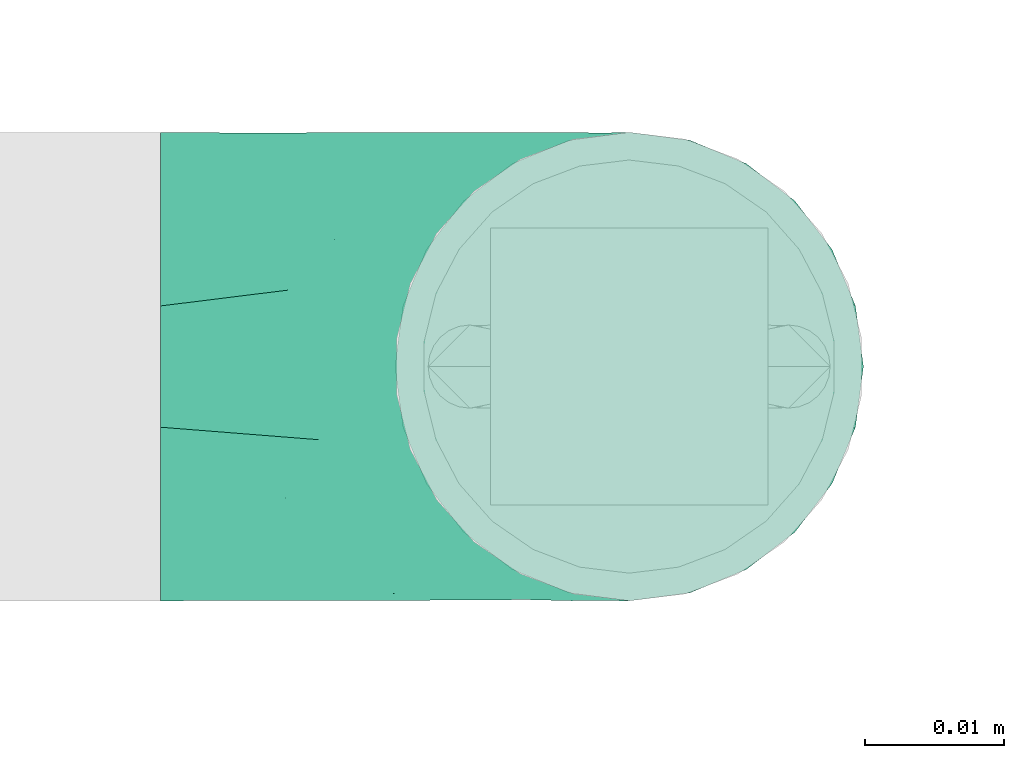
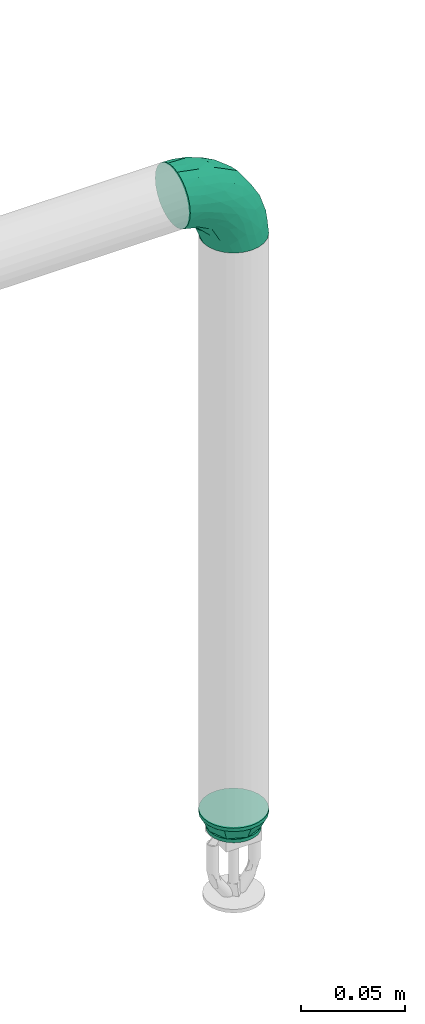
# One storey, part 9 of 17: 2 flow fittings.
"""IFC2X3 building model written with IfcOpenShell, lengths in millimetres."""

import ifcopenshell
import ifcopenshell.guid

model = None  # the IFC model being written
_history = None  # IfcOwnerHistory: only IFC2X3 demands one
_inside = {}  # id of a spatial element -> (the spatial element, [elements in it])
_under = {}  # id of a project, library or spatial element -> (it, [spatial elements below it])
_declared = {}  # id of a project -> (the project, [libraries it declares])
_typed = {}  # id of a type object -> (the type object, [elements of that type])
_made_of = {}  # id of a material, layer set ... -> (it, [elements and type objects made of it])


def new_model(schema):
    """Start an empty IFC model of exactly this schema.

    Asked for "IFC4X3", IfcOpenShell would pick the latest addendum, in which some entities
    have other attributes; the version numbers below select the first issue.
    IFC2X3 requires an IfcOwnerHistory on every rooted entity: one is made here for all.
    """
    global model, _history
    if schema == "IFC4X3":
        model = ifcopenshell.file(schema_version=(4, 3, 0, 0))
    else:
        model = ifcopenshell.file(schema=schema)
    _inside.clear()
    _under.clear()
    _declared.clear()
    _typed.clear()
    _made_of.clear()
    _history = None
    if model.schema == "IFC2X3":
        org = make("IfcOrganization", Name="unknown")
        user = make(
            "IfcPersonAndOrganization",
            ThePerson=make("IfcPerson", FamilyName="unknown"),
            TheOrganization=org,
        )
        app = make(
            "IfcApplication",
            ApplicationDeveloper=org,
            Version="unknown",
            ApplicationFullName="unknown",
            ApplicationIdentifier="unknown",
        )
        _history = make(
            "IfcOwnerHistory",
            OwningUser=user,
            OwningApplication=app,
            ChangeAction="ADDED",
            CreationDate=0,
        )
    return model


def make(cls, **values):
    """One entity of the class cls with the attributes given. An attribute that is None is left unset."""
    return model.create_entity(
        cls, **{name: value for name, value in values.items() if value is not None}
    )


def entity(cls, *values):
    """Any entity or typed value of the class cls, its attributes in the order of the schema. None: left unset."""
    e = model.create_entity(cls)
    for i, value in enumerate(values):
        if value is not None:
            e[i] = value
    return e


def rooted(cls, **values):
    """An entity with a GlobalId (a new one), such as an element, a storey or a relation."""
    return make(cls, GlobalId=ifcopenshell.guid.new(), OwnerHistory=_history, **values)


def si_unit(unit_type, name, prefix=None):
    """IfcSIUnit, for example si_unit("LENGTHUNIT", "METRE", prefix="MILLI")."""
    return make("IfcSIUnit", UnitType=unit_type, Prefix=prefix, Name=name)


def converted_unit(unit_type, name, factor, base, dimensions=None, offset=None):
    """IfcConversionBasedUnit, such as the inch: factor (a typed value) times the base unit."""
    return make(
        "IfcConversionBasedUnit"
        if offset is None
        else "IfcConversionBasedUnitWithOffset",
        ConversionOffset=offset,
        Dimensions=None
        if dimensions is None
        else entity("IfcDimensionalExponents", *dimensions),
        UnitType=unit_type,
        Name=name,
        ConversionFactor=make(
            "IfcMeasureWithUnit", ValueComponent=factor, UnitComponent=base
        ),
    )


def derived_unit(unit_type, elements):
    """IfcDerivedUnit: a product of units, each with its exponent."""
    return make(
        "IfcDerivedUnit",
        Elements=[
            make("IfcDerivedUnitElement", Unit=unit, Exponent=power)
            for unit, power in elements
        ],
        UnitType=unit_type,
    )


def assignment(units):
    """IfcUnitAssignment: the units of a project."""
    return None if units is None else make("IfcUnitAssignment", Units=units)


def point(xyz):
    """IfcCartesianPoint."""
    return None if xyz is None else make("IfcCartesianPoint", Coordinates=xyz)


def direction(xyz):
    """IfcDirection."""
    return None if xyz is None else make("IfcDirection", DirectionRatios=xyz)


def frame(location, z_axis=None, x_axis=None):
    """IfcAxis2Placement3D, a coordinate frame: its origin and axes. An axis left out is left unset."""
    return make(
        "IfcAxis2Placement3D",
        Location=point(location),
        Axis=direction(z_axis),
        RefDirection=direction(x_axis),
    )


def origin_with_axes():
    """The frame at (0, 0, 0) with the z axis (0, 0, 1) and the x axis (1, 0, 0) written out."""
    return frame((0.0, 0.0, 0.0), z_axis=(0.0, 0.0, 1.0), x_axis=(1.0, 0.0, 0.0))


def place(relative_to, where):
    """IfcLocalPlacement: puts the frame where relative to a parent placement (None: the world)."""
    return make(
        "IfcLocalPlacement", PlacementRelTo=relative_to, RelativePlacement=where
    )


def context(
    kind, dimensions, precision=None, world=None, true_north=None, identifier=None
):
    """IfcGeometricRepresentationContext, for example the 3D "Model" context."""
    return make(
        "IfcGeometricRepresentationContext",
        ContextIdentifier=identifier,
        ContextType=kind,
        CoordinateSpaceDimension=dimensions,
        Precision=precision,
        WorldCoordinateSystem=world,
        TrueNorth=true_north,
    )


def subcontext(parent, identifier, kind, view, scale=None):
    """IfcGeometricRepresentationSubContext, for example "Body" below "Model"."""
    return make(
        "IfcGeometricRepresentationSubContext",
        ContextIdentifier=identifier,
        ContextType=kind,
        ParentContext=parent,
        TargetScale=scale,
        TargetView=view,
    )


def project(units=None, contexts=None):
    """IfcProject with its units and contexts."""
    return rooted(
        "IfcProject",
        Name="project",
        RepresentationContexts=contexts,
        UnitsInContext=assignment(units),
    )


def spatial(cls, under=None, at=None, **own):
    """A site, building, storey or space (cls), placed at a placement, below another one or the project."""
    s = rooted(cls, ObjectPlacement=at, **own)
    if under is not None:
        _under.setdefault(under.id(), (under, []))[1].append(s)
    return s


def faces_of(points, faces, orient=None, outer=None):
    """IfcFace entities. A face is a list of loops; a loop is a list of indices into points, from 0.

    orient and outer hold one flag for each loop. By default every Orientation is true, the
    first loop of a face is its IfcFaceOuterBound and the others are IfcFaceBound.
    """
    made = []
    for i, loops in enumerate(faces):
        bounds = []
        for j, loop in enumerate(loops):
            is_outer = j == 0 if outer is None else outer[i][j]
            bounds.append(
                make(
                    "IfcFaceOuterBound" if is_outer else "IfcFaceBound",
                    Bound=make("IfcPolyLoop", Polygon=[points[k] for k in loop]),
                    Orientation=True if orient is None else orient[i][j],
                )
            )
        made.append(make("IfcFace", Bounds=bounds))
    return made


def open_shell(faces, orient=None, outer=None):
    """The faces of one IfcOpenShell. surface_model builds it on its shared points."""
    return ("IfcOpenShell", faces, orient, outer)


def surface_model(cls, points, shells):
    """IfcFaceBasedSurfaceModel or IfcShellBasedSurfaceModel (cls): surfaces that need not close."""
    shared = [point(p) for p in points]
    made = [make(c, CfsFaces=faces_of(shared, fs, o, b)) for c, fs, o, b in shells]
    if cls == "IfcFaceBasedSurfaceModel":
        return make(cls, FbsmFaces=made)
    return make(cls, SbsmBoundary=made)


def shape(context_of_items, identifier, shape_type, items):
    """IfcShapeRepresentation: the items that make up one representation, for example the "Body"."""
    return make(
        "IfcShapeRepresentation",
        ContextOfItems=context_of_items,
        RepresentationIdentifier=identifier,
        RepresentationType=shape_type,
        Items=items,
    )


def source(mapping_origin, context_of_items, identifier, shape_type, items):
    """IfcRepresentationMap: a shape defined once, which mapped items show again and again."""
    return make(
        "IfcRepresentationMap",
        MappingOrigin=mapping_origin,
        MappedRepresentation=shape(context_of_items, identifier, shape_type, items),
    )


def transform(
    local_origin,
    x_axis=None,
    y_axis=None,
    z_axis=None,
    scale=None,
    scale2=None,
    scale3=None,
    uniform=True,
):
    """IfcCartesianTransformationOperator3D, or its non-uniform kind. x_axis, y_axis, z_axis: its Axis1, 2, 3."""
    if uniform:
        return make(
            "IfcCartesianTransformationOperator3D",
            Axis1=direction(x_axis),
            Axis2=direction(y_axis),
            LocalOrigin=point(local_origin),
            Scale=scale,
            Axis3=direction(z_axis),
        )
    return make(
        "IfcCartesianTransformationOperator3DnonUniform",
        Axis1=direction(x_axis),
        Axis2=direction(y_axis),
        LocalOrigin=point(local_origin),
        Scale=scale,
        Axis3=direction(z_axis),
        Scale2=scale2,
        Scale3=scale3,
    )


def mapped(mapping_source, mapping_target):
    """IfcMappedItem: shows the shape of a source again, moved by a transform."""
    return make(
        "IfcMappedItem", MappingSource=mapping_source, MappingTarget=mapping_target
    )


def made_of(thing, what):
    """Note that an element or type object is made of a material, layer set ...; save() writes the relation."""
    if what is not None:
        _made_of.setdefault(what.id(), (what, []))[1].append(thing)
    return thing


def type_object(cls, material=None, **own):
    """A type object (cls), such as IfcWallType, which elements share."""
    return made_of(rooted(cls, **own), material)


def element(
    cls,
    number,
    at=None,
    inside=None,
    cuts=None,
    type_object=None,
    material=None,
    context=None,
    identifier="Body",
    shape_type=None,
    held_by="IfcProductDefinitionShape",
    body=None,
    shapes=None,
    **own,
):
    """One element of the class cls, such as IfcWall. Its Tag is "e" and its number.

    at: its placement. inside: the storey or other place that contains it. cuts: it is an
    opening in that element (IfcRelVoidsElement). A single representation is given by context,
    identifier, shape_type and body (its items); several are given by shapes. held_by: the class
    of the entity that holds the representations. save() writes the other relations.
    """
    e = rooted(cls, Tag="e%d" % number, ObjectPlacement=at, **own)
    if body is not None:
        shapes = [shape(context, identifier, shape_type, body)]
    if shapes is not None:
        e.Representation = make(held_by, Representations=shapes)
    if inside is not None:
        _inside.setdefault(inside.id(), (inside, []))[1].append(e)
    if cuts is not None:
        rooted(
            "IfcRelVoidsElement", RelatingBuildingElement=cuts, RelatedOpeningElement=e
        )
    if type_object is not None:
        _typed.setdefault(type_object.id(), (type_object, []))[1].append(e)
    return made_of(e, material)


def aggregate(whole, parts):
    """IfcRelAggregates: a whole, such as a stair, and the parts it consists of."""
    return rooted("IfcRelAggregates", RelatingObject=whole, RelatedObjects=parts)


def save(model, path):
    """Write the relations noted so far, then the file.

    IfcRelAggregates (storeys below a building ...), IfcRelContainedInSpatialStructure (elements
    in a storey), IfcRelDefinesByType, IfcRelAssociatesMaterial and IfcRelDeclares: one each for
    every whole, place, type object, material and project.
    """
    for whole, parts in _under.values():
        aggregate(whole, parts)
    for where, things in _inside.values():
        rooted(
            "IfcRelContainedInSpatialStructure",
            RelatedElements=things,
            RelatingStructure=where,
        )
    for kind, things in _typed.values():
        rooted("IfcRelDefinesByType", RelatedObjects=things, RelatingType=kind)
    for what, things in _made_of.values():
        rooted("IfcRelAssociatesMaterial", RelatedObjects=things, RelatingMaterial=what)
    for by, libraries in _declared.values():
        rooted("IfcRelDeclares", RelatingContext=by, RelatedDefinitions=libraries)
    model.write(path)


model = new_model("IFC2X3")

# Units and contexts
model_context = context("Model", 3, precision=0.01, world=frame((0.0, 4.29681676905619e-09, 0.0)), true_north=direction((4.01073788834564e-13, 1.0)))
plan_context = context("Plan", 3, precision=0.01, world=frame((0.0, 4.29681676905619e-09, 0.0)), true_north=direction((4.01073788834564e-13, 1.0)))
body_context = subcontext(model_context, "Body", "Model", "MODEL_VIEW")
ifc_project = project(units=[converted_unit("PLANEANGLEUNIT", "DEGREE", entity("IfcPositiveLengthMeasure", 0.0174532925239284), si_unit("PLANEANGLEUNIT", "RADIAN"), dimensions=[0, 0, 0, 0, 0, 0, 0]), si_unit("AREAUNIT", "SQUARE_METRE"), si_unit("LENGTHUNIT", "METRE", prefix="MILLI"), si_unit("MASSUNIT", "GRAM", prefix="KILO"), si_unit("POWERUNIT", "WATT"), si_unit("PRESSUREUNIT", "PASCAL", prefix="KILO"), si_unit("FORCEUNIT", "NEWTON", prefix="KILO"), si_unit("ELECTRICVOLTAGEUNIT", "VOLT"), si_unit("ELECTRICCURRENTUNIT", "AMPERE"), si_unit("THERMODYNAMICTEMPERATUREUNIT", "DEGREE_CELSIUS"), si_unit("TIMEUNIT", "SECOND"), si_unit("VOLUMEUNIT", "CUBIC_METRE"), derived_unit("LINEARVELOCITYUNIT", [(si_unit("LENGTHUNIT", "METRE"), 1), (si_unit("TIMEUNIT", "SECOND"), -1)]), derived_unit("VOLUMETRICFLOWRATEUNIT", [(si_unit("VOLUMEUNIT", "CUBIC_METRE"), 1), (si_unit("TIMEUNIT", "SECOND"), -1)]), derived_unit("THERMALTRANSMITTANCEUNIT", [(si_unit("POWERUNIT", "WATT"), 1), (si_unit("THERMODYNAMICTEMPERATUREUNIT", "KELVIN"), -1), (si_unit("AREAUNIT", "SQUARE_METRE"), -1)]), derived_unit("SOUNDPRESSUREUNIT", [(si_unit("PRESSUREUNIT", "PASCAL"), 1)])], contexts=[model_context, plan_context])

# Site, building, storey
site_placement = place(None, frame((0.0, -4.29681676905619e-09, 0.0), z_axis=(0.0, 0.0, 1.0), x_axis=(1.0, 0.0, 0.0)))
site = spatial("IfcSite", under=ifc_project, at=site_placement, CompositionType="ELEMENT")
building_placement = place(site_placement, frame((0.0, 4.29681676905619e-09, 0.0), z_axis=(0.0, 0.0, 1.0), x_axis=(1.0, 0.0, 0.0)))
building = spatial("IfcBuilding", under=site, at=building_placement, Name="mc-building", CompositionType="ELEMENT")
storey_placement = place(building_placement, frame((0.0, 0.0, 204000.0), z_axis=(0.0, 0.0, 1.0), x_axis=(1.0, 0.0, 0.0)))
storey = spatial("IfcBuildingStorey", under=building, at=storey_placement, Name="Nivå D", CompositionType="ELEMENT", Elevation=204000.0)

# Flow fittings
pipe_fitting_type_1 = type_object("IfcPipeFittingType", Name="magi_pipe_fe_elbow_short_001", PredefinedType="BEND")
shared_shape_1 = source(origin_with_axes(), body_context, "Body", "SurfaceModel", [
    surface_model("IfcShellBasedSurfaceModel", [(-33.8, 8.45, -14.63583), (-33.8, 4.37404, -16.32415), (-33.8, 11.9501, -11.9501), (-33.8, -11.9501, -11.9501), (-33.8, -14.63583, -8.45), (-33.8, -8.45, -14.63583), (-33.8, 0.0, -16.9), (-33.8, -4.37404, -16.32415), (-33.8, -4.37404, 16.32415), (-33.8, 0.0, 16.9), (-33.8, -8.45, 14.63583), (-33.8, 16.32415, -4.37404), (-33.8, 14.63583, -8.45), (-33.8, -16.32415, -4.37404), (-33.8, -16.9, 0.0), (-33.8, -16.32415, 4.37404), (-33.8, 11.9501, 11.9501), (-33.8, 14.63583, 8.45), (-33.8, 16.32415, 4.37404), (-33.8, 4.37404, 16.32415), (-33.8, 8.45, 14.63583), (-33.8, -14.63583, 8.45), (-33.8, -11.9501, 11.9501), (-33.8, 16.9, 0.0), (-11.9501, 33.8, -11.9501), (0.0, 33.8, -16.9), (-4.37404, 33.8, -16.32415), (-8.45, 33.8, -14.63583), (-14.63583, 33.8, -8.45), (-16.32415, 33.8, -4.37404), (14.63583, 33.8, -8.45), (8.45, 33.8, 14.63583), (16.32415, 33.8, -4.37404), (8.45, 33.8, -14.63583), (11.9501, 33.8, -11.9501), (4.37404, 33.8, -16.32415), (16.32415, 33.8, 4.37404), (16.9, 33.8, 0.0), (-11.9501, 33.8, 11.9501), (-16.32415, 33.8, 4.37404), (-14.63583, 33.8, 8.45), (-8.45, 33.8, 14.63583), (-4.37404, 33.8, 16.32415), (11.9501, 33.8, 11.9501), (14.63583, 33.8, 8.45), (0.0, 33.8, 16.9), (4.37404, 33.8, 16.32415), (-16.9, 33.8, 0.0), (-24.79389, -13.12945, 9.48721), (-22.19287, -9.75018, 12.59315), (-24.09897, -14.97035, 0.0), (-14.93934, -10.76256, 8.5297), (-22.46095, -14.75051, 5.27077), (14.75051, 22.46094, 5.27077), (11.9251, 13.23888, 4.33236), (13.04069, 14.39795, 0.0), (7.71387, 13.68847, 11.55891), (9.75018, 22.19287, 12.59315), (4.10169, 13.0571, 14.04018), (-24.84007, -6.39063, 15.2048), (-25.81779, -2.23879, 16.61097), (-23.66549, 2.59054, 16.87119), (-26.50418, 14.06512, 11.08152), (-24.21253, 17.66365, 7.72657), (-29.58514, 15.86957, 7.00283), (-6.17382, -7.5455, 0.0), (-13.23888, -11.9251, 4.33236), (-14.39795, -13.04069, 0.0), (-17.81434, 18.87373, 11.97104), (-6.30846, 29.15138, 15.82987), (-2.31622, 25.28002, 16.85849), (-29.23923, 10.23435, 13.77053), (-1.45439, -2.85688, 7.61475), (-0.28326, 0.34872, 10.09509), (-5.74484, -4.04709, 10.4122), (-4.41137, 11.31918, 16.59407), (-8.39727, 3.10034, 15.7812), (-1.72649, 9.1306, 15.53089), (-17.39909, 24.75344, 7.64977), (-26.19233, 20.0512, 0.0), (-28.14518, 17.29657, 4.25857), (-26.05147, 6.6281, 15.96447), (-5.87354, 16.61944, 16.86968), (-12.51807, 12.51807, 16.48937), (-10.06312, 7.38516, 16.81295), (-3.01882, 3.01882, 13.81718), (-13.0571, -4.10169, 14.04018), (-16.82553, -0.15166, 16.38038), (10.76256, 14.93934, 8.5297), (13.12945, 24.79389, 9.48721), (6.39063, 24.84007, 15.2048), (2.23879, 25.81779, 16.61097), (-13.68847, -7.71387, 11.55891), (14.97035, 24.09897, 0.0), (-7.30894, 22.89991, 16.09489), (-10.67958, 26.17414, 14.008), (-12.78295, 18.26924, 15.06066), (-13.88562, 22.45231, 12.93244), (-18.04944, 15.16501, 14.04434), (-23.11658, 20.08178, 4.02986), (-21.84989, 21.84989, 0.0), (-18.55817, 25.48277, 3.93065), (-13.95142, 26.94732, 11.03289), (-18.57098, 7.23906, 16.59756), (-16.58335, 4.14122, 16.89279), (-17.96666, 11.46709, 15.63151), (-9.84453, 17.54304, 16.18938), (0.15166, 16.82553, 16.38038), (-23.27207, 11.47201, 14.23154), (3.84842, 5.86994, 10.70473), (-8.0212, -7.54413, 7.93275), (1.00345, -2.19508, 4.57414), (5.13203, 3.01004, 5.90201), (5.24161, 1.7543, 2.53265), (8.70457, 7.04947, 3.99182), (-20.0512, 26.19233, 0.0), (8.4852, 8.76699, 7.09296), (-4.55488, -6.72064, 4.90681), (2.05031, -2.05031, 0.0), (7.5455, 6.17382, 0.0), (-26.75399, 2.1369, -16.845), (-14.61995, 24.73803, -11.27736), (-28.45274, -13.45335, -9.81895), (-26.00469, 6.63555, -15.96645), (-23.06726, 20.04573, -4.26202), (-13.80647, -4.26506, -14.17873), (-14.67501, -0.21081, -16.07388), (-6.7902, -0.2828, -13.8478), (-24.53586, 11.08096, -14.13417), (-26.72048, 14.00837, -11.05776), (10.0967, 24.44989, -12.75976), (5.83237, 21.40218, -15.03047), (6.66249, 28.54238, -15.38093), (-20.38182, 15.48705, -12.74596), (12.53268, 21.23441, -9.15363), (12.54494, 15.67504, -5.54878), (9.7522, 12.89279, -8.66343), (-15.65186, 19.64213, -13.01327), (-12.03528, 20.66498, -14.67665), (-15.61907, 15.61906, -14.83879), (-25.56551, -15.26206, 0.0), (-24.65452, -15.12934, -5.50955), (13.45335, 28.45274, -9.81895), (15.12934, 24.65452, -5.50955), (-7.35442, -8.31014, -5.65563), (-15.67504, -12.54494, -5.54878), (-24.44989, -10.0967, -12.75976), (0.16522, 0.41303, -9.71728), (-5.70658, -5.33066, -8.89288), (-5.13869, -2.37198, -11.53565), (-21.23441, -12.53268, -9.15363), (0.71146, 7.93863, -14.09382), (0.21081, 14.67501, -16.07388), (3.49291, 14.42772, -14.76381), (-24.89911, -2.13088, -16.591), (-28.54238, -6.66249, -15.38093), (-18.44386, -7.71663, -13.26957), (2.13088, 24.89911, -16.591), (-28.64342, 17.44413, -2.89318), (1.70017, -1.28722, -5.09504), (-16.57067, 26.81947, -7.36596), (-17.69055, 27.4263, -3.76405), (-12.89279, -9.7522, -8.66343), (-5.96611, 5.96611, -15.95814), (-20.53709, 20.09345, -8.28985), (-2.1369, 26.75399, -16.845), (-6.89872, 24.58781, -16.02578), (-10.60739, 26.53157, -13.98044), (-21.40218, -5.83237, -15.03047), (2.93192, 5.89627, -11.55917), (6.89393, 12.61842, -11.82233), (5.58056, 5.95325, -8.79455), (-3.99512, 18.61798, -16.89635), (8.31014, 7.35442, -5.65563), (-9.1383, 9.86148, -16.89041), (-9.99983, 16.02119, -16.39699), (-16.68576, 9.78031, -16.34199), (-27.01915, 16.61158, -7.12979), (15.26206, 25.56551, 0.0), (-18.61798, 3.99512, -16.89635), (-19.37495, 27.82495, 0.0), (-12.61842, -6.89393, -11.82233), (-18.84705, 19.14018, -10.96545)], [open_shell([[[0, 1, 2]], [[3, 4, 5]], [[6, 7, 5]], [[8, 9, 10]], [[1, 6, 2]], [[11, 12, 2]], [[4, 2, 6]], [[2, 13, 10]], [[5, 4, 6]], [[2, 4, 13]], [[14, 15, 13]], [[11, 2, 16]], [[11, 17, 18]], [[11, 16, 17]], [[19, 20, 16]], [[16, 2, 10]], [[19, 16, 10]], [[21, 22, 15]], [[22, 13, 15]], [[22, 10, 13]], [[10, 9, 19]], [[11, 18, 23]], [[24, 25, 26]], [[24, 26, 27]], [[24, 28, 29]], [[25, 24, 30]], [[31, 32, 24]], [[33, 30, 34]], [[33, 35, 25]], [[25, 30, 33]], [[32, 30, 24]], [[32, 36, 37]], [[38, 24, 29]], [[39, 40, 29]], [[40, 38, 29]], [[38, 41, 42]], [[38, 31, 24]], [[31, 38, 42]], [[36, 43, 44]], [[36, 32, 43]], [[31, 45, 46]], [[32, 31, 43]], [[42, 45, 31]], [[39, 29, 47]], [[22, 48, 49]], [[15, 14, 50]], [[51, 48, 52]], [[53, 54, 55]], [[48, 22, 21]], [[15, 52, 21]], [[56, 57, 58]], [[49, 10, 22]], [[49, 59, 10]], [[9, 60, 61]], [[62, 63, 64]], [[65, 66, 67]], [[57, 43, 31]], [[62, 68, 63]], [[42, 69, 70]], [[20, 71, 16]], [[8, 60, 9]], [[72, 73, 74]], [[75, 76, 77]], [[16, 62, 17]], [[40, 39, 78]], [[79, 23, 80]], [[64, 18, 17]], [[9, 61, 19]], [[19, 81, 20]], [[82, 83, 84]], [[74, 85, 86]], [[59, 86, 87]], [[88, 89, 57]], [[90, 31, 46]], [[44, 53, 36]], [[46, 45, 91]], [[54, 53, 88]], [[44, 89, 53]], [[92, 86, 49]], [[89, 44, 43]], [[10, 59, 8]], [[53, 55, 93]], [[93, 36, 53]], [[66, 52, 67]], [[94, 82, 70]], [[95, 96, 94]], [[97, 98, 96]], [[79, 99, 100]], [[41, 38, 95]], [[101, 100, 99]], [[68, 78, 63]], [[42, 41, 69]], [[23, 18, 80]], [[95, 94, 69]], [[78, 101, 99]], [[38, 102, 95]], [[70, 45, 42]], [[97, 95, 102]], [[15, 50, 52]], [[90, 57, 31]], [[57, 90, 58]], [[81, 19, 61]], [[103, 104, 84]], [[105, 81, 103]], [[38, 40, 102]], [[106, 96, 83]], [[94, 106, 82]], [[91, 70, 107]], [[71, 62, 16]], [[62, 108, 98]], [[86, 59, 49]], [[67, 52, 50]], [[60, 59, 87]], [[92, 49, 51]], [[86, 85, 76]], [[91, 90, 46]], [[37, 36, 93]], [[107, 77, 58]], [[107, 58, 90]], [[58, 85, 109]], [[110, 74, 92]], [[72, 74, 110]], [[66, 51, 52]], [[72, 111, 112]], [[113, 114, 112]], [[56, 88, 57]], [[52, 48, 21]], [[49, 48, 51]], [[57, 89, 43]], [[53, 89, 88]], [[103, 81, 61]], [[71, 81, 108]], [[18, 64, 80]], [[63, 78, 99]], [[47, 115, 101]], [[101, 115, 100]], [[40, 78, 102]], [[68, 102, 78]], [[97, 96, 95]], [[105, 98, 108]], [[103, 84, 83]], [[107, 70, 82]], [[76, 84, 87]], [[82, 84, 75]], [[70, 91, 45]], [[90, 91, 107]], [[59, 60, 8]], [[61, 60, 87]], [[73, 85, 74]], [[109, 112, 116]], [[103, 61, 104]], [[105, 103, 83]], [[96, 105, 83]], [[81, 105, 108]], [[96, 98, 105]], [[62, 98, 68]], [[61, 87, 104]], [[87, 84, 104]], [[86, 76, 87]], [[77, 76, 85]], [[58, 77, 85]], [[75, 77, 107]], [[82, 75, 107]], [[76, 75, 84]], [[81, 71, 20]], [[62, 71, 108]], [[95, 69, 41]], [[70, 69, 94]], [[62, 64, 17]], [[80, 63, 99]], [[63, 80, 64]], [[80, 99, 79]], [[66, 65, 117]], [[110, 66, 117]], [[112, 114, 116]], [[118, 117, 65]], [[110, 92, 51]], [[112, 111, 113]], [[119, 55, 54]], [[74, 86, 92]], [[58, 109, 56]], [[116, 56, 109]], [[66, 110, 51]], [[72, 110, 117]], [[111, 72, 117]], [[73, 112, 109]], [[117, 118, 111]], [[113, 111, 118]], [[118, 119, 113]], [[114, 119, 54]], [[119, 114, 113]], [[116, 54, 88]], [[54, 116, 114]], [[116, 88, 56]], [[112, 73, 72]], [[85, 73, 109]], [[78, 39, 101]], [[47, 101, 39]], [[102, 68, 97]], [[97, 68, 98]], [[82, 106, 83]], [[94, 96, 106]], [[1, 120, 6]], [[28, 24, 121]], [[3, 122, 4]], [[0, 123, 1]], [[100, 124, 79]], [[125, 126, 127]], [[128, 2, 129]], [[130, 131, 132]], [[128, 129, 133]], [[134, 135, 136]], [[137, 138, 139]], [[128, 0, 2]], [[67, 140, 141]], [[134, 142, 143]], [[141, 13, 4]], [[144, 65, 145]], [[146, 3, 5]], [[147, 148, 149]], [[145, 141, 150]], [[151, 152, 153]], [[154, 7, 6]], [[5, 155, 146]], [[150, 146, 156]], [[155, 5, 7]], [[143, 135, 134]], [[35, 157, 25]], [[23, 79, 158]], [[148, 159, 144]], [[160, 161, 29]], [[145, 162, 144]], [[163, 152, 151]], [[29, 28, 160]], [[121, 164, 160]], [[33, 34, 130]], [[25, 165, 26]], [[26, 165, 166]], [[142, 34, 30]], [[24, 27, 167]], [[124, 161, 164]], [[157, 35, 132]], [[155, 154, 168]], [[123, 0, 128]], [[169, 170, 171]], [[172, 157, 152]], [[26, 166, 27]], [[132, 35, 33]], [[142, 130, 34]], [[168, 154, 126]], [[136, 135, 173]], [[133, 137, 139]], [[2, 12, 129]], [[170, 131, 130]], [[30, 32, 143]], [[172, 174, 175]], [[176, 123, 128]], [[158, 177, 11]], [[135, 55, 119]], [[167, 27, 166]], [[175, 166, 172]], [[137, 167, 138]], [[122, 141, 4]], [[140, 14, 13]], [[32, 37, 178]], [[170, 130, 134]], [[152, 157, 131]], [[165, 157, 172]], [[153, 170, 151]], [[152, 163, 174]], [[168, 125, 156]], [[122, 146, 150]], [[120, 154, 6]], [[179, 174, 126]], [[179, 126, 154]], [[126, 163, 127]], [[162, 145, 150]], [[140, 13, 141]], [[32, 178, 143]], [[55, 143, 178]], [[177, 129, 12]], [[128, 133, 139]], [[176, 128, 139]], [[120, 123, 179]], [[121, 160, 28]], [[161, 100, 180]], [[166, 175, 138]], [[121, 24, 167]], [[161, 47, 29]], [[79, 124, 158]], [[124, 164, 177]], [[161, 124, 100]], [[136, 171, 170]], [[127, 163, 151]], [[147, 171, 159]], [[148, 144, 162]], [[127, 151, 169]], [[127, 181, 125]], [[129, 177, 164]], [[12, 11, 177]], [[159, 65, 144]], [[67, 141, 145]], [[143, 55, 135]], [[135, 119, 173]], [[123, 120, 1]], [[154, 120, 179]], [[157, 165, 25]], [[166, 165, 172]], [[172, 152, 174]], [[176, 139, 175]], [[126, 174, 163]], [[176, 174, 179]], [[174, 176, 175]], [[123, 176, 179]], [[150, 181, 162]], [[127, 149, 181]], [[181, 148, 162]], [[159, 148, 147]], [[171, 136, 173]], [[170, 134, 136]], [[159, 171, 173]], [[171, 147, 169]], [[169, 147, 149]], [[151, 170, 169]], [[164, 182, 129]], [[182, 121, 137]], [[181, 149, 148]], [[169, 149, 127]], [[182, 137, 133]], [[167, 137, 121]], [[166, 138, 167]], [[175, 139, 138]], [[129, 182, 133]], [[121, 182, 164]], [[161, 160, 164]], [[47, 161, 180]], [[177, 158, 124]], [[23, 158, 11]], [[130, 132, 33]], [[157, 132, 131]], [[143, 142, 30]], [[130, 142, 134]], [[154, 155, 7]], [[146, 155, 168]], [[146, 122, 3]], [[141, 122, 150]], [[152, 131, 153]], [[159, 119, 118]], [[67, 145, 65]], [[170, 153, 131]], [[119, 159, 173]], [[159, 118, 65]], [[156, 125, 181]], [[126, 125, 168]], [[150, 156, 181]], [[168, 156, 146]]])]),
])
flow_fitting_1_placement = place(storey_placement, frame((598404.25829, 402317.53152, 2780.0), z_axis=(0.0, -1.0, 0.0), x_axis=(0.0, 0.0, 1.0)))
element("IfcFlowFitting", 1, at=flow_fitting_1_placement, inside=storey, type_object=pipe_fitting_type_1, Name="magi_pipe_fe_elbow_short_001", context=body_context, shape_type="MappedRepresentation", body=[
    mapped(shared_shape_1, transform((0.0, 0.0, 0.0), scale=1.0)),
])
pipe_fitting_type_2 = type_object("IfcPipeFittingType", Name="magi_pipe_fe_reducer_centric_short_NOR", PredefinedType="TRANSITION")
shared_shape_2 = source(origin_with_axes(), body_context, "Body", "SurfaceModel", [
    surface_model("IfcShellBasedSurfaceModel", [(-2.0, -9.47523, 9.47523), (-2.0, 0.0, 13.4), (-2.0, 3.46818, 12.94341), (-2.0, 6.7, 11.60474), (-2.0, 9.47523, 9.47523), (-2.0, 11.60474, 6.7), (-2.0, 12.94341, 3.46818), (-2.0, -3.46818, 12.94341), (-2.0, -6.7, 11.60474), (-2.0, -12.94341, 3.46818), (-2.0, -11.60474, 6.7), (-2.0, -6.7, -11.60474), (-2.0, -12.94341, -3.46818), (-2.0, -13.4, 0.0), (-2.0, 12.94341, -3.46818), (-2.0, 6.7, -11.60474), (-2.0, 9.47523, -9.47523), (-2.0, 11.60474, -6.7), (-2.0, 3.46818, -12.94341), (-2.0, 0.0, -13.4), (-2.0, -9.47523, -9.47523), (-2.0, -11.60474, -6.7), (-2.0, -3.46818, -12.94341), (-2.0, 13.4, 0.0), (0.0, 12.94341, -3.46818), (0.0, 3.46818, -12.94341), (0.0, 6.7, -11.60474), (0.0, 11.60474, -6.7), (0.0, 9.47523, -9.47523), (0.0, -6.7, -11.60474), (0.0, -12.94341, 3.46818), (0.0, -3.46818, -12.94341), (0.0, 0.0, -13.4), (0.0, -9.47523, -9.47523), (0.0, -12.94341, -3.46818), (0.0, -11.60474, -6.7), (0.0, 13.4, 0.0), (0.0, 12.94341, 3.46818), (0.0, 11.60474, 6.7), (0.0, 9.47523, 9.47523), (0.0, 0.0, 13.4), (0.0, 6.7, 11.60474), (0.0, 3.46818, 12.94341), (0.0, -9.47523, 9.47523), (0.0, -11.60474, 6.7), (0.0, -13.4, 0.0), (0.0, -3.46818, 12.94341), (0.0, -6.7, 11.60474), (9.0, 4.37404, -16.32415), (9.0, 8.45, -14.63583), (9.0, 11.9501, -11.9501), (9.0, 0.0, -16.9), (9.0, 16.32415, -4.37404), (9.0, 16.32415, 4.37404), (9.0, 14.63583, -8.45), (9.0, -8.45, -14.63583), (9.0, -4.37404, -16.32415), (9.0, -11.9501, -11.9501), (9.0, -16.32415, -4.37404), (9.0, -14.63583, -8.45), (9.0, -16.32415, 4.37404), (9.0, 16.9, 0.0), (9.0, 14.63583, 8.45), (9.0, 11.9501, 11.9501), (9.0, 4.37404, 16.32415), (9.0, 0.0, 16.9), (9.0, 8.45, 14.63583), (9.0, -14.63583, 8.45), (9.0, -16.9, 0.0), (9.0, -8.45, 14.63583), (9.0, -11.9501, 11.9501), (9.0, -4.37404, 16.32415), (7.0, 4.37404, 16.32415), (7.0, -14.63583, 8.45), (7.0, 0.0, 16.9), (7.0, 16.32415, 4.37404), (7.0, 8.45, 14.63583), (7.0, 11.9501, 11.9501), (7.0, 14.63583, 8.45), (7.0, -8.45, 14.63583), (7.0, -11.9501, 11.9501), (7.0, -4.37404, 16.32415), (7.0, -16.32415, 4.37404), (7.0, -16.32415, -4.37404), (7.0, -16.9, 0.0), (7.0, -8.45, -14.63583), (7.0, 16.32415, -4.37404), (7.0, 11.9501, -11.9501), (7.0, 14.63583, -8.45), (7.0, 8.45, -14.63583), (7.0, 4.37404, -16.32415), (7.0, 0.0, -16.9), (7.0, -11.9501, -11.9501), (7.0, -14.63583, -8.45), (7.0, -4.37404, -16.32415), (7.0, 16.9, 0.0), (7.0, -14.51228, -5.76448), (0.0, -11.43761, -4.73762), (7.0, -13.23119, -8.85729), (0.0, -10.45642, -7.10642), (0.0, -12.41881, -2.36881), (7.0, -15.70614, -2.88224), (0.0, -2.36881, -12.41881), (7.0, -5.97505, -14.42505), (0.0, -7.10642, -10.45642), (0.0, -4.73762, -11.43761), (7.0, -2.98753, -15.66253), (7.0, -8.96258, -13.18758), (7.0, 2.98753, -15.66253), (0.0, 2.36881, -12.41881), (0.0, 12.45339, -2.28533), (7.0, 13.18758, -8.96258), (0.0, 10.45642, -7.10642), (7.0, 14.42505, -5.97505), (0.0, 11.43761, -4.73762), (0.0, 7.10642, -10.45642), (7.0, 8.96258, -13.18758), (7.0, 15.66253, -2.98753), (0.0, 4.73762, -11.43761), (7.0, 5.97505, -14.42505), (7.0, 14.51228, 5.76448), (0.0, 11.43761, 4.73762), (7.0, 13.23119, 8.85729), (0.0, 10.45642, 7.10642), (0.0, 12.41881, 2.36881), (7.0, 15.70614, 2.88224), (0.0, 2.36881, 12.41881), (7.0, 5.97505, 14.42505), (0.0, 7.10642, 10.45642), (0.0, 4.73762, 11.43761), (7.0, 2.98753, 15.66253), (7.0, 8.96258, 13.18758), (7.0, -2.98753, 15.66253), (0.0, -2.36881, 12.41881), (0.0, -12.45339, 2.28533), (7.0, -13.18758, 8.96258), (0.0, -10.45642, 7.10642), (7.0, -14.42505, 5.97505), (0.0, -11.43761, 4.73762), (0.0, -7.10642, 10.45642), (7.0, -8.96258, 13.18758), (7.0, -15.66253, 2.98753), (0.0, -4.73762, 11.43761), (7.0, -5.97505, 14.42505)], [open_shell([[[0, 1, 2]], [[3, 0, 2]], [[4, 5, 6]], [[4, 6, 3]], [[0, 3, 6]], [[7, 0, 8]], [[7, 1, 0]], [[0, 9, 10]], [[0, 11, 9]], [[9, 12, 13]], [[14, 0, 6]], [[0, 14, 15]], [[16, 14, 17]], [[18, 0, 15]], [[15, 14, 16]], [[18, 19, 0]], [[12, 20, 21]], [[12, 9, 20]], [[22, 11, 0]], [[9, 11, 20]], [[22, 0, 19]], [[23, 14, 6]], [[24, 25, 26]], [[27, 26, 28]], [[29, 25, 30]], [[24, 26, 27]], [[25, 24, 30]], [[25, 31, 32]], [[25, 29, 31]], [[33, 34, 35]], [[30, 34, 33]], [[33, 29, 30]], [[24, 36, 30]], [[37, 38, 39]], [[37, 39, 40]], [[41, 42, 40]], [[41, 40, 39]], [[37, 40, 43]], [[30, 43, 44]], [[45, 34, 30]], [[43, 46, 47]], [[43, 30, 37]], [[46, 43, 40]], [[30, 36, 37]], [[12, 34, 13]], [[21, 35, 12]], [[29, 20, 11]], [[21, 20, 33]], [[31, 11, 22]], [[12, 35, 34]], [[34, 45, 13]], [[31, 29, 11]], [[33, 20, 29]], [[33, 35, 21]], [[32, 31, 22]], [[22, 19, 32]], [[18, 25, 19]], [[15, 26, 18]], [[27, 16, 17]], [[15, 16, 28]], [[24, 17, 14]], [[15, 28, 26]], [[26, 25, 18]], [[36, 24, 14]], [[27, 17, 24]], [[27, 28, 16]], [[23, 36, 14]], [[19, 25, 32]], [[6, 37, 23]], [[5, 38, 6]], [[41, 4, 3]], [[5, 4, 39]], [[42, 3, 2]], [[6, 38, 37]], [[37, 36, 23]], [[42, 41, 3]], [[39, 4, 41]], [[39, 38, 5]], [[40, 42, 2]], [[2, 1, 40]], [[7, 46, 1]], [[8, 47, 7]], [[44, 0, 10]], [[8, 0, 43]], [[30, 10, 9]], [[8, 43, 47]], [[47, 46, 7]], [[45, 30, 9]], [[44, 10, 30]], [[44, 43, 0]], [[13, 45, 9]], [[1, 46, 40]], [[33, 45, 43]], [[40, 39, 36]], [[48, 49, 50]], [[51, 48, 50]], [[50, 52, 53]], [[52, 50, 54]], [[50, 53, 55]], [[51, 55, 56]], [[51, 50, 55]], [[57, 58, 59]], [[58, 57, 55]], [[55, 60, 58]], [[53, 52, 61]], [[53, 62, 63]], [[53, 63, 64]], [[64, 65, 53]], [[64, 63, 66]], [[53, 65, 67]], [[53, 67, 60]], [[68, 58, 60]], [[67, 69, 70]], [[67, 65, 69]], [[69, 65, 71]], [[60, 55, 53]], [[72, 73, 74]], [[75, 72, 76]], [[77, 78, 75]], [[77, 75, 76]], [[73, 72, 75]], [[79, 73, 80]], [[73, 79, 81]], [[74, 73, 81]], [[75, 82, 73]], [[82, 83, 84]], [[82, 75, 85]], [[75, 86, 87]], [[87, 86, 88]], [[87, 89, 90]], [[85, 75, 87]], [[90, 91, 87]], [[83, 92, 93]], [[92, 83, 85]], [[85, 91, 94]], [[83, 82, 85]], [[87, 91, 85]], [[86, 75, 95]], [[83, 58, 84]], [[93, 59, 83]], [[55, 92, 85]], [[93, 92, 57]], [[56, 85, 94]], [[83, 59, 58]], [[58, 68, 84]], [[56, 55, 85]], [[57, 92, 55]], [[57, 59, 93]], [[51, 56, 94]], [[94, 91, 51]], [[90, 48, 91]], [[89, 49, 90]], [[54, 87, 88]], [[89, 87, 50]], [[52, 88, 86]], [[89, 50, 49]], [[49, 48, 90]], [[61, 52, 86]], [[54, 88, 52]], [[54, 50, 87]], [[95, 61, 86]], [[91, 48, 51]], [[75, 53, 95]], [[78, 62, 75]], [[66, 77, 76]], [[78, 77, 63]], [[64, 76, 72]], [[75, 62, 53]], [[53, 61, 95]], [[64, 66, 76]], [[63, 77, 66]], [[63, 62, 78]], [[65, 64, 72]], [[72, 74, 65]], [[81, 71, 74]], [[79, 69, 81]], [[67, 80, 73]], [[79, 80, 70]], [[60, 73, 82]], [[79, 70, 69]], [[69, 71, 81]], [[68, 60, 82]], [[67, 73, 60]], [[67, 70, 80]], [[84, 68, 82]], [[74, 71, 65]], [[84, 77, 74]], [[87, 95, 77]], [[74, 80, 84]], [[84, 92, 91]], [[91, 87, 84]], [[84, 87, 77]], [[33, 43, 40]], [[36, 28, 33]], [[32, 33, 28]], [[36, 33, 40]], [[96, 97, 98]], [[33, 92, 99]], [[100, 96, 101]], [[102, 32, 91]], [[103, 104, 105]], [[102, 91, 106]], [[107, 33, 104]], [[108, 32, 109]], [[110, 36, 95]], [[45, 101, 84]], [[108, 91, 32]], [[111, 28, 112]], [[113, 112, 114]], [[115, 87, 116]], [[110, 95, 117]], [[99, 98, 97]], [[117, 113, 114]], [[106, 103, 105]], [[118, 116, 119]], [[109, 118, 119]], [[96, 100, 97]], [[45, 100, 101]], [[99, 92, 98]], [[104, 103, 107]], [[107, 92, 33]], [[106, 105, 102]], [[112, 113, 111]], [[111, 87, 28]], [[117, 114, 110]], [[116, 118, 115]], [[115, 28, 87]], [[109, 119, 108]], [[120, 121, 122]], [[39, 77, 123]], [[124, 120, 125]], [[126, 40, 74]], [[127, 128, 129]], [[126, 74, 130]], [[131, 39, 128]], [[132, 40, 133]], [[134, 45, 84]], [[36, 125, 95]], [[132, 74, 40]], [[135, 43, 136]], [[137, 136, 138]], [[139, 80, 140]], [[134, 84, 141]], [[123, 122, 121]], [[141, 137, 138]], [[130, 127, 129]], [[142, 140, 143]], [[133, 142, 143]], [[120, 124, 121]], [[36, 124, 125]], [[123, 77, 122]], [[128, 127, 131]], [[131, 77, 39]], [[130, 129, 126]], [[136, 137, 135]], [[135, 80, 43]], [[141, 138, 134]], [[140, 142, 139]], [[139, 43, 80]], [[133, 143, 132]]])]),
])
flow_fitting_2_placement = place(storey_placement, frame((598404.25829, 402317.53152, 2400.0), z_axis=(1.0, 0.0, 0.0), x_axis=(0.0, 0.0, 1.0)))
element("IfcFlowFitting", 2, at=flow_fitting_2_placement, inside=storey, type_object=pipe_fitting_type_2, Name="magi_pipe_fe_reducer_centric_short_NOR", context=body_context, shape_type="MappedRepresentation", body=[
    mapped(shared_shape_2, transform((0.0, 0.0, 0.0), scale=1.0)),
])

save(model, "model.ifc")
